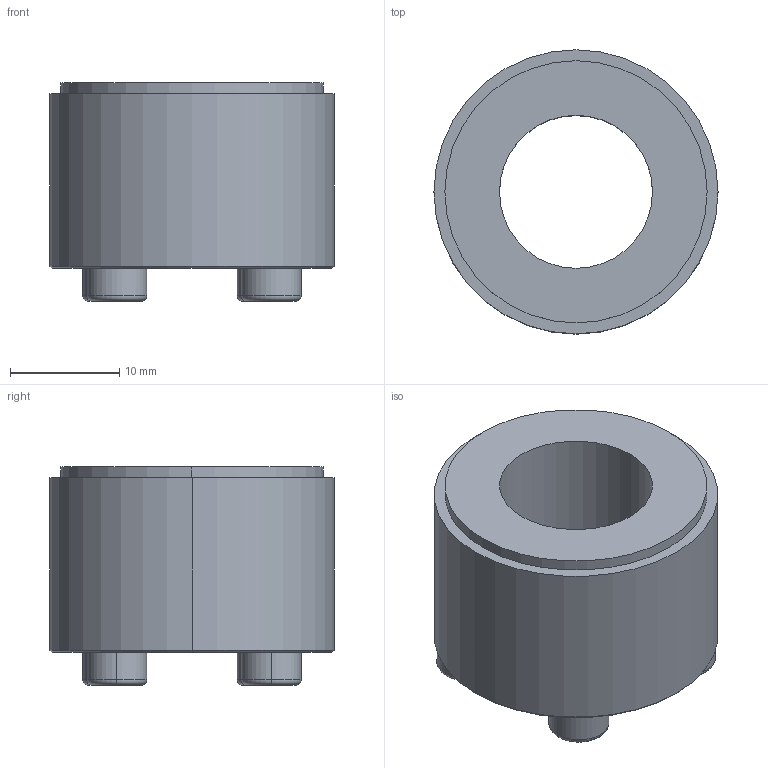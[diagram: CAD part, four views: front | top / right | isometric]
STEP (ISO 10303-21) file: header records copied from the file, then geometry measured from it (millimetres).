
FILE_DESCRIPTION (( 'STEP AP203' ), '1' );
FILE_NAME ('PL-B 14-26.STEP', '2021-10-22T07:45:12', ( '' ), ( '' ), 'SwSTEP 2.0', 'SolidWorks 2018', '' );
FILE_SCHEMA (( 'CONFIG_CONTROL_DESIGN' ));
Length unit declared in the file: millimetre
Products named in the file (1): PL-B 14-26
Bounding box: 26 x 26 x 20 mm (x, y, z)
Volume: 6581.2 mm3; surface area: 3106.4 mm2
Topology: 1 solids, 1 shells, 61 faces, 138 edges, 88 vertices
Faces by surface type: plane 35, cylinder 14, torus 8, cone 4
Entity records: 1785 total; most frequent: DIRECTION 310, CARTESIAN_POINT 288, ORIENTED_EDGE 276, EDGE_CURVE 138, AXIS2_PLACEMENT_3D 110, VECTOR 90, LINE 90, VERTEX_POINT 88
